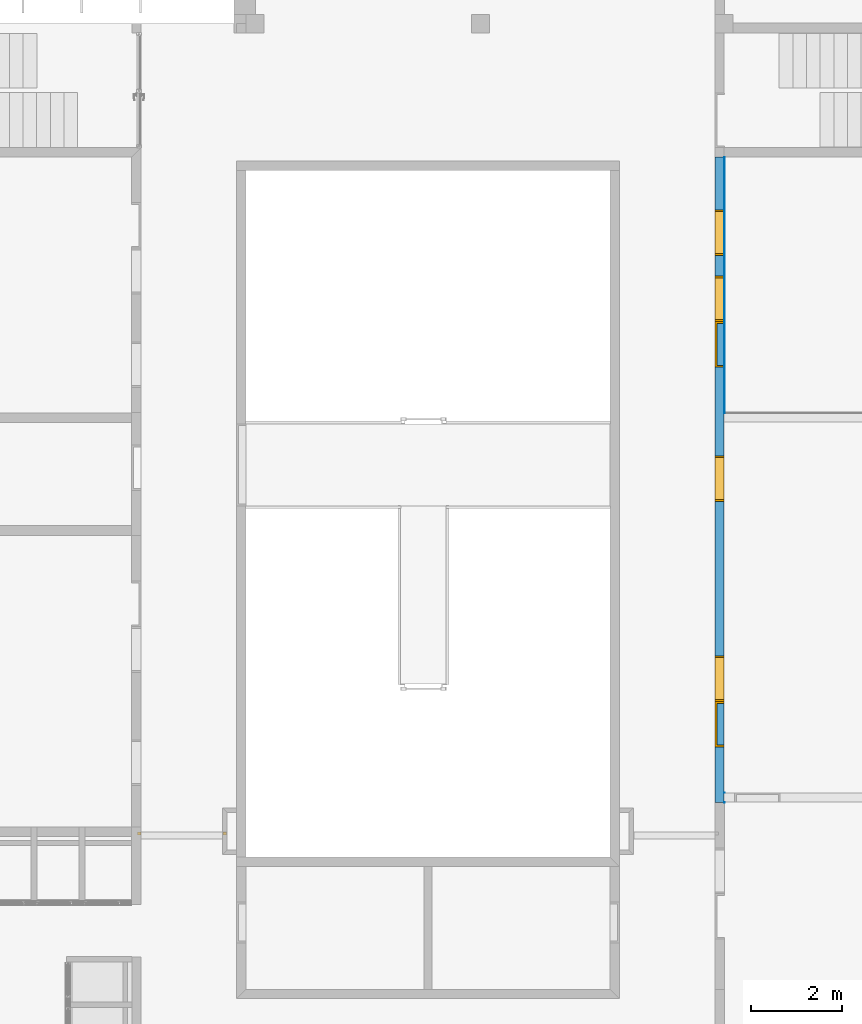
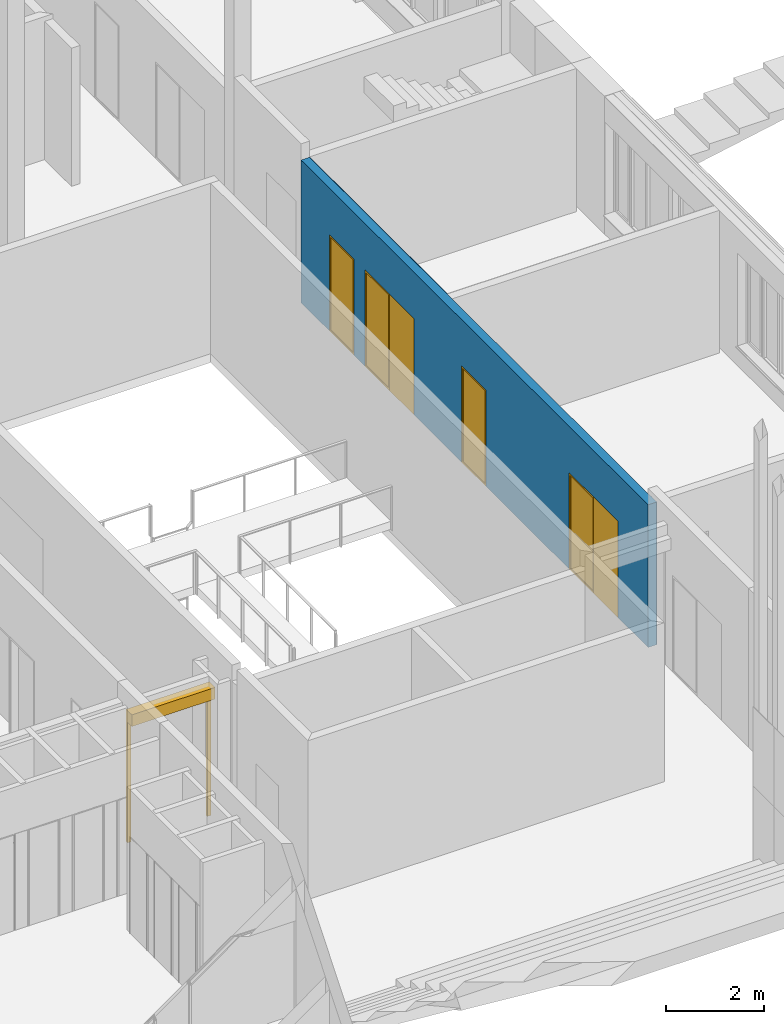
# One storey, part 78 of 89: 4 windows, 3 doors, 2 building element parts, 6 openings, 1 element without a shape of its own.
"""IFC2X3 building model written with IfcOpenShell, lengths in millimetres."""

from ifc_helpers import new_model, entity, si_unit, converted_unit, derived_unit, money_unit, direction, frame, origin_with_axes, origin_2d_with_axis, place, context, subcontext, project, spatial, polyline, rectangle, outline, extrude, boolean, open_shell, faceted_brep, surface_model, source, transform, mapped, material, type_object, element, fill, aggregate, save


model = new_model("IFC2X3")

# Units and contexts
model_context = context("Model", 3, precision=0.01, world=origin_with_axes(), true_north=direction((0.0, 1.0)))
body_context = subcontext(model_context, "Body", "Model", "MODEL_VIEW")
ifc_project = project(units=[si_unit("LENGTHUNIT", "METRE", prefix="MILLI"), si_unit("AREAUNIT", "SQUARE_METRE"), si_unit("VOLUMEUNIT", "CUBIC_METRE"), converted_unit("PLANEANGLEUNIT", "DEGREE", entity("IfcPlaneAngleMeasure", 0.0174532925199), si_unit("PLANEANGLEUNIT", "RADIAN"), dimensions=[0, 0, 0, 0, 0, 0, 0]), si_unit("SOLIDANGLEUNIT", "STERADIAN"), money_unit("EUR"), converted_unit("TIMEUNIT", "Year", entity("IfcTimeMeasure", 31556926.0), si_unit("TIMEUNIT", "SECOND"), dimensions=[0, 0, 1, 0, 0, 0, 0]), si_unit("MASSUNIT", "GRAM", prefix="KILO"), si_unit("THERMODYNAMICTEMPERATUREUNIT", "DEGREE_CELSIUS"), si_unit("LUMINOUSINTENSITYUNIT", "LUMEN"), si_unit("ENERGYUNIT", "JOULE", prefix="MEGA"), derived_unit("THERMALCONDUCTANCEUNIT", [(si_unit("POWERUNIT", "WATT"), 1), (si_unit("LENGTHUNIT", "METRE"), -1), (si_unit("THERMODYNAMICTEMPERATUREUNIT", "KELVIN"), -1)]), derived_unit("SPECIFICHEATCAPACITYUNIT", [(si_unit("ENERGYUNIT", "JOULE"), 1), (si_unit("MASSUNIT", "GRAM", prefix="KILO"), -1), (si_unit("THERMODYNAMICTEMPERATUREUNIT", "KELVIN"), -1)]), derived_unit("MASSDENSITYUNIT", [(si_unit("MASSUNIT", "GRAM", prefix="KILO"), 1), (si_unit("VOLUMEUNIT", "CUBIC_METRE"), -1)])], contexts=[model_context])

# Site, building, storey
site_placement = place(None, origin_with_axes())
site = spatial("IfcSite", under=ifc_project, at=site_placement, Name="Puškini 31, Narva", CompositionType="ELEMENT")
building_placement = place(site_placement, origin_with_axes())
building = spatial("IfcBuilding", under=site, at=building_placement, Name="Narva Riigigümnaasium", CompositionType="ELEMENT")
storey_placement = place(building_placement, frame((0.0, 0.0, -3300.0), z_axis=(0.0, 0.0, 1.0), x_axis=(1.0, 0.0, 0.0)))
storey = spatial("IfcBuildingStorey", under=building, at=storey_placement, Name="1.korrus -3.3", CompositionType="ELEMENT", Elevation=-3300.0)

# Window
window_style = type_object("IfcWindowStyle", Name="Window 23", ConstructionType="NOTDEFINED", OperationType="SINGLE_PANEL", ParameterTakesPrecedence=False, Sizeable=False)
shared_shape_1 = source(origin_with_axes(), body_context, "Body", "SurfaceModel", [
    faceted_brep([(-460.0, -210.0, 2360.0), (-460.0, 0.0, 2360.0), (-500.0, 0.0, 2360.0), (-500.0, -210.0, 2360.0), (-460.0, -210.0, 40.0), (-460.0, 0.0, 40.0), (-500.0, 0.0, 40.0), (-500.0, -210.0, 40.0)], [[[0, 1, 2, 3]], [[4, 5, 1, 0]], [[1, 5, 6, 2]], [[3, 2, 6, 7]], [[0, 3, 7, 4]], [[7, 6, 5, 4]]]),
    faceted_brep([(460.0, -210.0, 40.0), (460.0, 0.0, 40.0), (500.0, 0.0, 40.0), (500.0, -210.0, 40.0), (460.0, -210.0, 2360.0), (460.0, 0.0, 2360.0), (500.0, 0.0, 2360.0), (500.0, -210.0, 2360.0)], [[[0, 1, 2, 3]], [[4, 5, 1, 0]], [[1, 5, 6, 2]], [[3, 2, 6, 7]], [[0, 3, 7, 4]], [[7, 6, 5, 4]]]),
    faceted_brep([(-460.0, -210.0, 40.0), (-460.0, 0.0, 40.0), (-500.0, 0.0, 40.0), (-500.0, -210.0, 40.0), (460.0, -210.0, 40.0), (460.0, 0.0, 40.0), (500.0, 0.0, 40.0), (500.0, 0.0, 0.0), (-500.0, 0.0, 0.0), (-500.0, -210.0, 0.0), (500.0, -210.0, 0.0), (500.0, -210.0, 40.0)], [[[0, 1, 2, 3]], [[4, 5, 1, 0]], [[1, 5, 6, 7, 8, 2]], [[3, 2, 8, 9]], [[0, 3, 9, 10, 11, 4]], [[11, 6, 5, 4]], [[10, 7, 6, 11]], [[9, 8, 7, 10]]]),
    faceted_brep([(460.0, -210.0, 2360.0), (460.0, 0.0, 2360.0), (500.0, 0.0, 2360.0), (500.0, -210.0, 2360.0), (-460.0, -210.0, 2360.0), (-460.0, 0.0, 2360.0), (-500.0, 0.0, 2360.0), (-500.0, 0.0, 2400.0), (500.0, 0.0, 2400.0), (500.0, -210.0, 2400.0), (-500.0, -210.0, 2400.0), (-500.0, -210.0, 2360.0)], [[[0, 1, 2, 3]], [[4, 5, 1, 0]], [[1, 5, 6, 7, 8, 2]], [[3, 2, 8, 9]], [[0, 3, 9, 10, 11, 4]], [[11, 6, 5, 4]], [[10, 7, 6, 11]], [[9, 8, 7, 10]]]),
    surface_model("IfcShellBasedSurfaceModel", [(-460.0, -35.0, 40.0), (460.0, -35.0, 40.0), (460.0, -35.0, 2360.0), (-460.0, -35.0, 2360.0)], [open_shell([[[0, 1, 2, 3]]])]),
    surface_model("IfcShellBasedSurfaceModel", [(-460.0, -15.0, 40.0), (-460.0, -15.0, 2360.0), (460.0, -15.0, 2360.0), (460.0, -15.0, 40.0)], [open_shell([[[0, 1, 2, 3]]])]),
])
wall_placement = place(storey_placement, frame((47499.9999928, 221069.999999, 0.0), z_axis=(0.0, 0.0, 1.0), x_axis=(0.0, -1.0, 0.0)))
opening_4_placement = place(wall_placement, frame((1657.18787588, 0.0, 0.0), z_axis=(0.0, 0.0, 1.0), x_axis=(1.0, 0.0, 0.0)))
window_1_placement = place(opening_4_placement, frame((500.0, 0.0, 0.0), z_axis=(0.0, 0.0, 1.0), x_axis=(-1.0, 0.0, 0.0)))
window_1 = element("IfcWindow", 1, at=window_1_placement, inside=storey, type_object=window_style, Name="G-SA-1", ObjectType="WINDOW", OverallHeight=2400.0, OverallWidth=1000.0, context=body_context, shape_type="MappedRepresentation", body=[
    mapped(shared_shape_1, transform((500.0, 0.0, 0.0))),
])

shared_shape_2 = source(origin_with_axes(), body_context, "Body", "SurfaceModel", [
    faceted_brep([(460.0, -210.0, 2360.0), (500.0, -210.0, 2360.0), (500.0, 0.0, 2360.0), (460.0, 0.0, 2360.0), (460.0, -210.0, 40.0), (500.0, -210.0, 40.0), (500.0, 0.0, 40.0), (460.0, 0.0, 40.0)], [[[0, 1, 2, 3]], [[0, 4, 5, 1]], [[1, 5, 6, 2]], [[3, 2, 6, 7]], [[4, 0, 3, 7]], [[5, 4, 7, 6]]]),
    faceted_brep([(-460.0, -210.0, 40.0), (-500.0, -210.0, 40.0), (-500.0, 0.0, 40.0), (-460.0, 0.0, 40.0), (-460.0, -210.0, 2360.0), (-500.0, -210.0, 2360.0), (-500.0, 0.0, 2360.0), (-460.0, 0.0, 2360.0)], [[[0, 1, 2, 3]], [[0, 4, 5, 1]], [[1, 5, 6, 2]], [[3, 2, 6, 7]], [[4, 0, 3, 7]], [[5, 4, 7, 6]]]),
    faceted_brep([(460.0, -210.0, 40.0), (500.0, -210.0, 40.0), (500.0, 0.0, 40.0), (460.0, 0.0, 40.0), (-460.0, -210.0, 40.0), (-500.0, -210.0, 40.0), (-500.0, -210.0, 0.0), (500.0, -210.0, 0.0), (500.0, 0.0, 0.0), (-500.0, 0.0, 0.0), (-500.0, 0.0, 40.0), (-460.0, 0.0, 40.0)], [[[0, 1, 2, 3]], [[0, 4, 5, 6, 7, 1]], [[1, 7, 8, 2]], [[3, 2, 8, 9, 10, 11]], [[4, 0, 3, 11]], [[5, 4, 11, 10]], [[6, 5, 10, 9]], [[7, 6, 9, 8]]]),
    faceted_brep([(-460.0, -210.0, 2360.0), (-500.0, -210.0, 2360.0), (-500.0, 0.0, 2360.0), (-460.0, 0.0, 2360.0), (460.0, -210.0, 2360.0), (500.0, -210.0, 2360.0), (500.0, -210.0, 2400.0), (-500.0, -210.0, 2400.0), (-500.0, 0.0, 2400.0), (500.0, 0.0, 2400.0), (500.0, 0.0, 2360.0), (460.0, 0.0, 2360.0)], [[[0, 1, 2, 3]], [[0, 4, 5, 6, 7, 1]], [[1, 7, 8, 2]], [[3, 2, 8, 9, 10, 11]], [[4, 0, 3, 11]], [[5, 4, 11, 10]], [[6, 5, 10, 9]], [[7, 6, 9, 8]]]),
    surface_model("IfcShellBasedSurfaceModel", [(460.0, -35.0, 40.0), (460.0, -35.0, 2360.0), (-460.0, -35.0, 2360.0), (-460.0, -35.0, 40.0)], [open_shell([[[0, 1, 2, 3]]])]),
    surface_model("IfcShellBasedSurfaceModel", [(460.0, -15.0, 40.0), (-460.0, -15.0, 40.0), (-460.0, -15.0, 2360.0), (460.0, -15.0, 2360.0)], [open_shell([[[0, 1, 2, 3]]])]),
])
opening_3_placement = place(wall_placement, frame((3109.99999844, 0.0, 0.0), z_axis=(0.0, 0.0, 1.0), x_axis=(1.0, 0.0, 0.0)))
window_2_placement = place(opening_3_placement, frame((500.0, 0.0, 0.0), z_axis=(0.0, 0.0, 1.0), x_axis=(-1.0, 0.0, 0.0)))
window_2 = element("IfcWindow", 2, at=window_2_placement, inside=storey, type_object=window_style, Name="G-SA-1", ObjectType="WINDOW", OverallHeight=2400.0, OverallWidth=1000.0, context=body_context, shape_type="MappedRepresentation", body=[
    mapped(shared_shape_2, transform((500.0, 0.0, 0.0))),
])

# Door
ifc_material_1 = material(Name="ET-05_Teras")
door_style_1 = type_object("IfcDoorStyle", Name="TTK-2", ConstructionType="NOTDEFINED", OperationType="NOTDEFINED", ParameterTakesPrecedence=False, Sizeable=False)
door_1_placement = place(storey_placement, frame((34819.9999996, 206015.0, 0.0), z_axis=(0.0, 0.0, 1.0), x_axis=(1.0, 0.0, 0.0)))
element("IfcDoor", 3, at=door_1_placement, inside=storey, type_object=door_style_1, material=ifc_material_1, Name="Tuletõkkekardin", ObjectType="DOOR", context=body_context, shape_type="Brep", body=[
    faceted_brep([(0.0, 0.0, 3005.0), (1959.99988526, 0.0, 3005.0), (1959.99988526, 0.0, 3295.0), (0.0, 0.0, 3295.0), (0.0, 235.0, 3005.0), (1959.99988526, 235.0, 3005.0), (1959.99988526, 235.0, 3295.0), (0.0, 235.0, 3295.0)], [[[0, 1, 2, 3]], [[0, 4, 5, 1]], [[1, 5, 6, 2]], [[3, 2, 6, 7]], [[4, 0, 3, 7]], [[5, 4, 7, 6]]]),
    faceted_brep([(1880.0000642, 175.0, 0.0), (1959.99988526, 175.0, 0.0), (1959.99988526, 175.0, 3005.0), (1880.0000642, 175.0, 3005.0), (1880.0000642, 235.0, 0.0), (1959.99988526, 235.0, 0.0), (1959.99988526, 235.0, 3005.0), (1880.0000642, 235.0, 3005.0)], [[[0, 1, 2, 3]], [[0, 4, 5, 1]], [[1, 5, 6, 2]], [[3, 2, 6, 7]], [[4, 0, 3, 7]], [[5, 4, 7, 6]]]),
    faceted_brep([(0.0, 175.0, 0.0), (79.9998210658, 175.0, 0.0), (79.9998210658, 175.0, 3005.0), (0.0, 175.0, 3005.0), (0.0, 235.0, 0.0), (79.9998210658, 235.0, 0.0), (79.9998210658, 235.0, 3005.0), (0.0, 235.0, 3005.0)], [[[0, 1, 2, 3]], [[0, 4, 5, 1]], [[1, 5, 6, 2]], [[3, 2, 6, 7]], [[4, 0, 3, 7]], [[5, 4, 7, 6]]]),
])

door_style_2 = type_object("IfcDoorStyle", Name="Door 23", ConstructionType="NOTDEFINED", OperationType="SINGLE_SWING_RIGHT", ParameterTakesPrecedence=False, Sizeable=False)
opening_5_placement = place(wall_placement, frame((4109.99999844, 0.0, 0.0), z_axis=(0.0, 0.0, 1.0), x_axis=(1.0, 0.0, 0.0)))
door_2_placement = place(opening_5_placement, frame((500.0, 0.0, 0.0), z_axis=(0.0, 0.0, 1.0), x_axis=(-1.0, 0.0, 0.0)))
door_2 = element("IfcDoor", 4, at=door_2_placement, inside=storey, type_object=door_style_2, Name="G-SU-033", ObjectType="DOOR", OverallHeight=2400.0, OverallWidth=1000.0, context=body_context, shape_type="Brep", body=[
    faceted_brep([(40.0, -40.0, 0.0), (40.0, -40.0, 2360.0), (40.0, -210.0, 2360.0), (40.0, -210.0, 0.0), (28.0, -40.0, 2360.0), (28.0, -40.0, 0.0), (28.0, 0.0, 2360.0), (0.0, 0.0, 2360.0), (0.0, -210.0, 2360.0), (0.0, -210.0, 0.0), (0.0, 0.0, 0.0), (28.0, 0.0, 0.0)], [[[0, 1, 2, 3]], [[4, 1, 0, 5]], [[4, 6, 7, 8, 2, 1]], [[3, 2, 8, 9]], [[5, 0, 3, 9, 10, 11]], [[6, 4, 5, 11]], [[6, 11, 10, 7]], [[10, 9, 8, 7]]]),
    faceted_brep([(972.0, -40.0, 2360.0), (960.0, -40.0, 2360.0), (960.0, -210.0, 2360.0), (1000.0, -210.0, 2360.0), (1000.0, 0.0, 2360.0), (972.0, 0.0, 2360.0), (972.0, -40.0, 0.0), (960.0, -40.0, 0.0), (960.0, -210.0, 0.0), (1000.0, -210.0, 0.0), (1000.0, 0.0, 0.0), (972.0, 0.0, 0.0)], [[[0, 1, 2, 3, 4, 5]], [[1, 0, 6, 7]], [[1, 7, 8, 2]], [[3, 2, 8, 9]], [[4, 3, 9, 10]], [[11, 5, 4, 10]], [[0, 5, 11, 6]], [[6, 11, 10, 9, 8, 7]]]),
    faceted_brep([(28.0, 0.0, 2372.0), (28.0, 0.0, 2360.0), (0.0, 0.0, 2360.0), (0.0, 0.0, 2400.0), (1000.0, 0.0, 2400.0), (1000.0, 0.0, 2360.0), (972.0, 0.0, 2360.0), (972.0, 0.0, 2372.0), (28.0, -40.0, 2372.0), (28.0, -40.0, 2360.0), (40.0, -40.0, 2360.0), (40.0, -210.0, 2360.0), (0.0, -210.0, 2360.0), (0.0, -210.0, 2400.0), (1000.0, -210.0, 2400.0), (1000.0, -210.0, 2360.0), (972.0, -40.0, 2360.0), (960.0, -210.0, 2360.0), (960.0, -40.0, 2360.0), (972.0, -40.0, 2372.0)], [[[0, 1, 2, 3, 4, 5, 6, 7]], [[1, 0, 8, 9]], [[9, 10, 11, 12, 2, 1]], [[2, 12, 13, 3]], [[3, 13, 14, 4]], [[4, 14, 15, 5]], [[16, 6, 5, 15, 17, 18]], [[7, 6, 16, 19]], [[0, 7, 19, 8]], [[16, 18, 10, 9, 8, 19]], [[10, 18, 17, 11]], [[17, 15, 14, 13, 12, 11]]]),
    faceted_brep([(972.0, 0.0, 0.0), (972.0, -40.0, 0.0), (28.0, -40.0, 0.0), (28.0, 0.0, 0.0), (972.0, 0.0, 2372.0), (972.0, -40.0, 2372.0), (28.0, -40.0, 2372.0), (28.0, 0.0, 2372.0)], [[[0, 1, 2, 3]], [[4, 5, 1, 0]], [[1, 5, 6, 2]], [[3, 2, 6, 7]], [[0, 3, 7, 4]], [[7, 6, 5, 4]]]),
])

opening_6_placement = place(wall_placement, frame((12449.9999968, 0.0, 0.0), z_axis=(0.0, 0.0, 1.0), x_axis=(1.0, 0.0, 0.0)))
door_3_placement = place(opening_6_placement, frame((500.0, 0.0, 0.0), z_axis=(0.0, 0.0, 1.0), x_axis=(-1.0, 0.0, 0.0)))
door_3 = element("IfcDoor", 5, at=door_3_placement, inside=storey, type_object=door_style_2, Name="G-SU-034", ObjectType="DOOR", OverallHeight=2400.0, OverallWidth=1000.0, context=body_context, shape_type="Brep", body=[
    faceted_brep([(0.0, -199.99994541, 2360.0), (40.0, -199.99994541, 2360.0), (40.0, -40.0, 2360.0), (28.0, -40.0, 2360.0), (28.0, 0.0, 2360.0), (0.0, 0.0, 2360.0), (40.0, -199.99994541, 0.0), (0.0, -199.99994541, 0.0), (40.0, -40.0, 0.0), (28.0, -40.0, 0.0), (28.0, 0.0, 0.0), (0.0, 0.0, 0.0)], [[[0, 1, 2, 3, 4, 5]], [[6, 1, 0, 7]], [[1, 6, 8, 2]], [[9, 3, 2, 8]], [[10, 4, 3, 9]], [[5, 4, 10, 11]], [[7, 0, 5, 11]], [[6, 7, 11, 10, 9, 8]]]),
    faceted_brep([(960.0, -199.99994541, 2360.0), (1000.0, -199.99994541, 2360.0), (1000.0, 0.0, 2360.0), (972.0, 0.0, 2360.0), (972.0, -40.0, 2360.0), (960.0, -40.0, 2360.0), (1000.0, -199.99994541, 0.0), (960.0, -199.99994541, 0.0), (1000.0, 0.0, 0.0), (972.0, 0.0, 0.0), (972.0, -40.0, 0.0), (960.0, -40.0, 0.0)], [[[0, 1, 2, 3, 4, 5]], [[6, 1, 0, 7]], [[1, 6, 8, 2]], [[8, 9, 3, 2]], [[10, 4, 3, 9]], [[11, 5, 4, 10]], [[7, 0, 5, 11]], [[6, 7, 11, 10, 9, 8]]]),
    faceted_brep([(0.0, -199.99994541, 2400.0), (1000.0, -199.99994541, 2400.0), (1000.0, 0.0, 2400.0), (0.0, 0.0, 2400.0), (1000.0, -199.99994541, 2360.0), (0.0, -199.99994541, 2360.0), (40.0, -199.99994541, 2360.0), (960.0, -199.99994541, 2360.0), (1000.0, 0.0, 2360.0), (972.0, 0.0, 2372.0), (28.0, 0.0, 2372.0), (28.0, 0.0, 2360.0), (0.0, 0.0, 2360.0), (972.0, 0.0, 2360.0), (28.0, -40.0, 2360.0), (40.0, -40.0, 2360.0), (960.0, -40.0, 2360.0), (972.0, -40.0, 2360.0), (28.0, -40.0, 2372.0), (972.0, -40.0, 2372.0)], [[[0, 1, 2, 3]], [[4, 1, 0, 5, 6, 7]], [[1, 4, 8, 2]], [[9, 10, 11, 12, 3, 2, 8, 13]], [[5, 0, 3, 12]], [[6, 5, 12, 11, 14, 15]], [[7, 6, 15, 16]], [[4, 7, 16, 17, 13, 8]], [[18, 10, 9, 19]], [[14, 11, 10, 18]], [[19, 9, 13, 17]], [[19, 17, 16, 15, 14, 18]]]),
    faceted_brep([(972.0, 0.0, 0.0), (972.0, -40.0, 0.0), (28.0, -40.0, 0.0), (28.0, 0.0, 0.0), (972.0, 0.0, 2372.0), (972.0, -40.0, 2372.0), (28.0, -40.0, 2372.0), (28.0, 0.0, 2372.0)], [[[0, 1, 2, 3]], [[4, 5, 1, 0]], [[1, 5, 6, 2]], [[3, 2, 6, 7]], [[0, 3, 7, 4]], [[7, 6, 5, 4]]]),
])

# Window
opening_1_placement = place(wall_placement, frame((11449.9999968, 0.0, 0.0), z_axis=(0.0, 0.0, 1.0), x_axis=(1.0, 0.0, 0.0)))
window_3_placement = place(opening_1_placement, frame((500.0, 0.0, 0.0), z_axis=(0.0, 0.0, 1.0), x_axis=(-1.0, 0.0, 0.0)))
window_3 = element("IfcWindow", 6, at=window_3_placement, inside=storey, type_object=window_style, Name="G-SA-1", ObjectType="WINDOW", OverallHeight=2400.0, OverallWidth=1000.0, context=body_context, shape_type="SurfaceModel", body=[
    faceted_brep([(0.0, -199.99994541, 2360.0), (40.0, -199.99994541, 2360.0), (40.0, 0.0, 2360.0), (0.0, 0.0, 2360.0), (40.0, -199.99994541, 40.0), (0.0, -199.99994541, 40.0), (40.0, 0.0, 40.0), (0.0, 0.0, 40.0)], [[[0, 1, 2, 3]], [[4, 1, 0, 5]], [[1, 4, 6, 2]], [[3, 2, 6, 7]], [[5, 0, 3, 7]], [[4, 5, 7, 6]]]),
    faceted_brep([(960.0, -199.99994541, 2360.0), (1000.0, -199.99994541, 2360.0), (1000.0, 0.0, 2360.0), (960.0, 0.0, 2360.0), (1000.0, -199.99994541, 40.0), (960.0, -199.99994541, 40.0), (1000.0, 0.0, 40.0), (960.0, 0.0, 40.0)], [[[0, 1, 2, 3]], [[4, 1, 0, 5]], [[1, 4, 6, 2]], [[6, 7, 3, 2]], [[5, 0, 3, 7]], [[4, 5, 7, 6]]]),
    faceted_brep([(960.0, -199.99994541, 40.0), (1000.0, -199.99994541, 40.0), (1000.0, 0.0, 40.0), (960.0, 0.0, 40.0), (1000.0, -199.99994541, 0.0), (40.0, -199.99994541, 40.0), (0.0, -199.99994541, 40.0), (0.0, -199.99994541, 0.0), (1000.0, 0.0, 0.0), (0.0, 0.0, 40.0), (40.0, 0.0, 40.0), (0.0, 0.0, 0.0)], [[[0, 1, 2, 3]], [[4, 1, 0, 5, 6, 7]], [[1, 4, 8, 2]], [[9, 10, 3, 2, 8, 11]], [[5, 0, 3, 10]], [[6, 5, 10, 9]], [[7, 6, 9, 11]], [[4, 7, 11, 8]]]),
    faceted_brep([(0.0, -199.99994541, 2400.0), (1000.0, -199.99994541, 2400.0), (1000.0, 0.0, 2400.0), (0.0, 0.0, 2400.0), (1000.0, -199.99994541, 2360.0), (0.0, -199.99994541, 2360.0), (40.0, -199.99994541, 2360.0), (960.0, -199.99994541, 2360.0), (1000.0, 0.0, 2360.0), (960.0, 0.0, 2360.0), (40.0, 0.0, 2360.0), (0.0, 0.0, 2360.0)], [[[0, 1, 2, 3]], [[4, 1, 0, 5, 6, 7]], [[1, 4, 8, 2]], [[8, 9, 10, 11, 3, 2]], [[5, 0, 3, 11]], [[6, 5, 11, 10]], [[7, 6, 10, 9]], [[4, 7, 9, 8]]]),
    surface_model("IfcShellBasedSurfaceModel", [(40.0, -35.0, 40.0), (960.0, -35.0, 40.0), (960.0, -35.0, 2360.0), (40.0, -35.0, 2360.0)], [open_shell([[[0, 1, 2, 3]]])]),
    surface_model("IfcShellBasedSurfaceModel", [(40.0, -15.0, 40.0), (40.0, -15.0, 2360.0), (960.0, -15.0, 2360.0), (960.0, -15.0, 40.0)], [open_shell([[[0, 1, 2, 3]]])]),
])

opening_2_placement = place(wall_placement, frame((7059.84872692, 0.0, 0.0), z_axis=(0.0, 0.0, 1.0), x_axis=(1.0, 0.0, 0.0)))
window_4_placement = place(opening_2_placement, frame((500.0, 0.0, 0.0), z_axis=(0.0, 0.0, 1.0), x_axis=(-1.0, 0.0, 0.0)))
window_4 = element("IfcWindow", 7, at=window_4_placement, inside=storey, type_object=window_style, Name="G-SA-1", ObjectType="WINDOW", OverallHeight=2400.0, OverallWidth=1000.0, context=body_context, shape_type="SurfaceModel", body=[
    faceted_brep([(960.0, -199.99994541, 2360.0), (1000.0, -199.99994541, 2360.0), (1000.0, 0.0, 2360.0), (960.0, 0.0, 2360.0), (1000.0, -199.99994541, 40.0), (960.0, -199.99994541, 40.0), (1000.0, 0.0, 40.0), (960.0, 0.0, 40.0)], [[[0, 1, 2, 3]], [[4, 1, 0, 5]], [[1, 4, 6, 2]], [[7, 3, 2, 6]], [[5, 0, 3, 7]], [[4, 5, 7, 6]]]),
    faceted_brep([(0.0, -199.99994541, 2360.0), (40.0, -199.99994541, 2360.0), (40.0, 0.0, 2360.0), (0.0, 0.0, 2360.0), (40.0, -199.99994541, 40.0), (0.0, -199.99994541, 40.0), (40.0, 0.0, 40.0), (0.0, 0.0, 40.0)], [[[0, 1, 2, 3]], [[4, 1, 0, 5]], [[1, 4, 6, 2]], [[2, 6, 7, 3]], [[5, 0, 3, 7]], [[4, 5, 7, 6]]]),
    faceted_brep([(960.0, -199.99994541, 40.0), (1000.0, -199.99994541, 40.0), (1000.0, 0.0, 40.0), (960.0, 0.0, 40.0), (1000.0, -199.99994541, 0.0), (40.0, -199.99994541, 40.0), (0.0, -199.99994541, 40.0), (0.0, -199.99994541, 0.0), (1000.0, 0.0, 0.0), (40.0, 0.0, 40.0), (0.0, 0.0, 0.0), (0.0, 0.0, 40.0)], [[[0, 1, 2, 3]], [[4, 1, 0, 5, 6, 7]], [[1, 4, 8, 2]], [[9, 3, 2, 8, 10, 11]], [[5, 0, 3, 9]], [[6, 5, 9, 11]], [[7, 6, 11, 10]], [[4, 7, 10, 8]]]),
    faceted_brep([(0.0, -199.99994541, 2400.0), (1000.0, -199.99994541, 2400.0), (1000.0, 0.0, 2400.0), (0.0, 0.0, 2400.0), (1000.0, -199.99994541, 2360.0), (0.0, -199.99994541, 2360.0), (40.0, -199.99994541, 2360.0), (960.0, -199.99994541, 2360.0), (1000.0, 0.0, 2360.0), (960.0, 0.0, 2360.0), (40.0, 0.0, 2360.0), (0.0, 0.0, 2360.0)], [[[0, 1, 2, 3]], [[4, 1, 0, 5, 6, 7]], [[1, 4, 8, 2]], [[9, 10, 11, 3, 2, 8]], [[5, 0, 3, 11]], [[6, 5, 11, 10]], [[7, 6, 10, 9]], [[4, 7, 9, 8]]]),
    surface_model("IfcShellBasedSurfaceModel", [(960.0, -35.0, 40.0), (960.0, -35.0, 2360.0), (40.0, -35.0, 2360.0), (40.0, -35.0, 40.0)], [open_shell([[[0, 1, 2, 3]]])]),
    surface_model("IfcShellBasedSurfaceModel", [(960.0, -15.0, 40.0), (40.0, -15.0, 40.0), (40.0, -15.0, 2360.0), (960.0, -15.0, 2360.0)], [open_shell([[[0, 1, 2, 3]]])]),
])

# Wall, opening
wall_type = type_object("IfcWallType", Name="G-SS-01-02 210", PredefinedType="NOTDEFINED")
wall = element("IfcWall", 8, at=wall_placement, inside=storey, type_object=wall_type, Name="Sisesein")
opening_1 = element("IfcOpeningElement", 9, at=opening_1_placement, cuts=wall, Name="G-SA-1", context=body_context, shape_type="SweptSolid", body=[
    extrude(rectangle(XDim=1000.0, YDim=2400.0, at=origin_2d_with_axis()), frame((0.0, 210.0, 1200.0), z_axis=(0.0, -1.0, 0.0), x_axis=(-1.0, 0.0, 0.0)), (0.0, 0.0, 1.0), 630.0),
])

fill(opening_1, window_3)

# Opening
opening_2 = element("IfcOpeningElement", 10, at=opening_2_placement, cuts=wall, Name="G-SA-1", context=body_context, shape_type="SweptSolid", body=[
    extrude(rectangle(XDim=1000.0, YDim=2400.0, at=origin_2d_with_axis()), frame((0.0, 210.0, 1200.0), z_axis=(0.0, 1.0, 0.0), x_axis=(1.0, 0.0, 0.0)), (0.0, 0.0, -1.0), 630.0),
])

fill(opening_2, window_4)

opening_3 = element("IfcOpeningElement", 11, at=opening_3_placement, cuts=wall, Name="G-SA-1", context=body_context, shape_type="SweptSolid", body=[
    extrude(rectangle(XDim=1000.0, YDim=2400.0, at=origin_2d_with_axis()), frame((0.0, 210.0, 1200.0), z_axis=(0.0, 1.0, 0.0), x_axis=(1.0, 0.0, 0.0)), (0.0, 0.0, -1.0), 630.0),
])

fill(opening_3, window_2)

opening_4 = element("IfcOpeningElement", 12, at=opening_4_placement, cuts=wall, Name="G-SA-1", context=body_context, shape_type="SweptSolid", body=[
    extrude(rectangle(XDim=1000.0, YDim=2400.0, at=origin_2d_with_axis()), frame((0.0, 210.0, 1200.0), z_axis=(0.0, -1.0, 0.0), x_axis=(-1.0, 0.0, 0.0)), (0.0, 0.0, 1.0), 630.0),
])

fill(opening_4, window_1)

opening_5 = element("IfcOpeningElement", 13, at=opening_5_placement, cuts=wall, Name="G-SU-033", context=body_context, shape_type="SweptSolid", body=[
    extrude(rectangle(XDim=1000.0, YDim=2400.0, at=origin_2d_with_axis()), frame((0.0, 210.0, 1200.0), z_axis=(0.0, -1.0, 0.0), x_axis=(-1.0, 0.0, 0.0)), (0.0, 0.0, 1.0), 630.0),
])

fill(opening_5, door_2)

opening_6 = element("IfcOpeningElement", 14, at=opening_6_placement, cuts=wall, Name="G-SU-034", context=body_context, shape_type="SweptSolid", body=[
    extrude(rectangle(XDim=1000.0, YDim=2400.0, at=origin_2d_with_axis()), frame((0.0, 210.0, 1200.0), z_axis=(0.0, -1.0, 0.0), x_axis=(-1.0, 0.0, 0.0)), (0.0, 0.0, 1.0), 630.0),
])

fill(opening_6, door_3)

# Building element part
ifc_material_2 = material(Name="siseviimistlus-seinad")
building_element_part_1_placement = place(wall_placement, origin_with_axes())
building_element_part_1 = element("IfcBuildingElementPart", 15, at=building_element_part_1_placement, material=ifc_material_2, Name="siseviimistlus-seinad", context=body_context, shape_type="CSG", body=[
    boolean("DIFFERENCE", boolean("DIFFERENCE", extrude(outline(polyline([(0.0, 200.0), (14169.9999968, 200.0), (14169.9999968, 210.0), (0.0, 210.0), (0.0, 200.0)])), origin_with_axes(), (0.0, 0.0, 1.0), 3960.0), faceted_brep([(5619.99999842, 210.0, 0.0), (5619.99999844, 210.0, 3555.0), (0.0, 210.0, 3555.0), (0.0, 210.0, 3960.0), (14169.9999968, 210.0, 3960.0), (14169.9999968, 210.0, 3555.0), (14159.9999968, 210.0, 3555.0), (14159.9999968, 210.0, 0.0), (13959.9999968, 210.0, 0.0), (13959.9999968, 210.0, 3555.0), (13949.9999968, 209.99994541, 3555.0), (13949.9999968, 209.99994541, 0.0), (5619.99999842, 200.0, 0.0), (5619.99999844, 200.0, 3555.0), (0.0, 200.0, 3555.0), (0.0, 200.0, 3960.0), (14169.9999968, 200.0, 3960.0), (14169.9999968, 200.0, 3555.0), (14159.9999968, 200.0, 3555.0), (14159.9999968, 200.0, 0.0), (13959.9999968, 200.0, 0.0), (13959.9999968, 200.0, 3555.0), (13949.9999968, 199.99994541, 3555.0), (13949.9999968, 199.99994541, 0.0)], [[[0, 1, 2, 3, 4, 5, 6, 7, 8, 9, 10, 11]], [[1, 0, 12, 13]], [[14, 2, 1, 13]], [[2, 14, 15, 3]], [[3, 15, 16, 4]], [[17, 5, 4, 16]], [[6, 5, 17, 18]], [[7, 6, 18, 19]], [[20, 8, 7, 19]], [[9, 8, 20, 21]], [[10, 9, 21, 22]], [[11, 10, 22, 23]], [[12, 0, 11, 23]], [[13, 12, 23, 22, 21, 20, 19, 18, 17, 16, 15, 14]]])), faceted_brep([(5819.99999844, 199.99994541, 3555.0), (0.0, 200.0, 3555.0), (0.0, 200.0, 3960.0), (14169.9999968, 200.0, 3960.0), (14169.9999968, 200.0, 3555.0), (13949.9999968, 199.99994541, 3555.0), (0.0, 7.78854314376e-07, 3555.0), (14169.9999968, 7.24966753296e-07, 3555.0), (0.0, 0.0, 3960.0), (14169.9999968, 0.0, 3960.0)], [[[0, 1, 2, 3, 4, 5]], [[6, 1, 0, 5, 4, 7]], [[1, 6, 8, 2]], [[2, 8, 9, 3]], [[7, 4, 3, 9]], [[6, 7, 9, 8]]])),
])

ifc_material_3 = material(Name="Betoon element")
building_element_part_2_placement = place(wall_placement, origin_with_axes())
building_element_part_2 = element("IfcBuildingElementPart", 16, at=building_element_part_2_placement, material=ifc_material_3, Name="Betoon element", context=body_context, shape_type="CSG", body=[
    boolean("DIFFERENCE", boolean("DIFFERENCE", extrude(outline(polyline([(0.0, 0.0), (14169.9999968, 0.0), (14169.9999968, 200.0), (0.0, 200.0), (0.0, 0.0)])), origin_with_axes(), (0.0, 0.0, 1.0), 3960.0), faceted_brep([(5619.99999842, 210.0, 0.0), (5619.99999844, 210.0, 3555.0), (0.0, 210.0, 3555.0), (0.0, 210.0, 3960.0), (14169.9999968, 210.0, 3960.0), (14169.9999968, 210.0, 3555.0), (14159.9999968, 210.0, 3555.0), (14159.9999968, 210.0, 0.0), (13959.9999968, 210.0, 0.0), (13959.9999968, 210.0, 3555.0), (13949.9999968, 209.99994541, 3555.0), (13949.9999968, 209.99994541, 0.0), (5619.99999842, 200.0, 0.0), (5619.99999844, 200.0, 3555.0), (0.0, 200.0, 3555.0), (0.0, 200.0, 3960.0), (14169.9999968, 200.0, 3960.0), (14169.9999968, 200.0, 3555.0), (14159.9999968, 200.0, 3555.0), (14159.9999968, 200.0, 0.0), (13959.9999968, 200.0, 0.0), (13959.9999968, 200.0, 3555.0), (13949.9999968, 199.99994541, 3555.0), (13949.9999968, 199.99994541, 0.0)], [[[0, 1, 2, 3, 4, 5, 6, 7, 8, 9, 10, 11]], [[1, 0, 12, 13]], [[14, 2, 1, 13]], [[2, 14, 15, 3]], [[3, 15, 16, 4]], [[17, 5, 4, 16]], [[6, 5, 17, 18]], [[7, 6, 18, 19]], [[20, 8, 7, 19]], [[9, 8, 20, 21]], [[10, 9, 21, 22]], [[11, 10, 22, 23]], [[12, 0, 11, 23]], [[13, 12, 23, 22, 21, 20, 19, 18, 17, 16, 15, 14]]])), faceted_brep([(5819.99999844, 199.99994541, 3555.0), (0.0, 200.0, 3555.0), (0.0, 200.0, 3960.0), (14169.9999968, 200.0, 3960.0), (14169.9999968, 200.0, 3555.0), (13949.9999968, 199.99994541, 3555.0), (0.0, 7.78854314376e-07, 3555.0), (14169.9999968, 7.24966753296e-07, 3555.0), (0.0, 0.0, 3960.0), (14169.9999968, 0.0, 3960.0)], [[[0, 1, 2, 3, 4, 5]], [[6, 1, 0, 5, 4, 7]], [[1, 6, 8, 2]], [[2, 8, 9, 3]], [[7, 4, 3, 9]], [[6, 7, 9, 8]]])),
])

aggregate(wall, [building_element_part_1, building_element_part_2])

save(model, "model.ifc")
